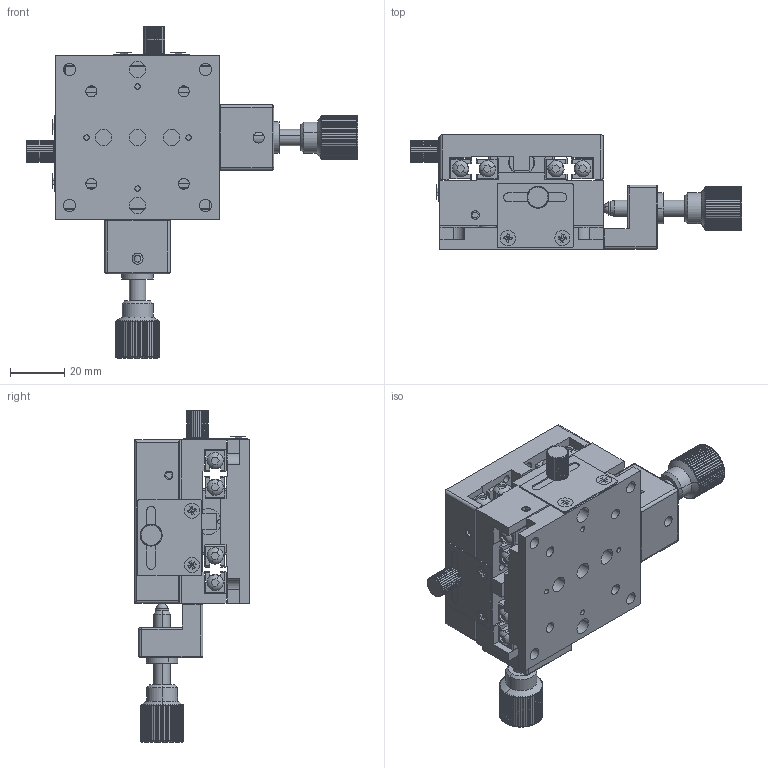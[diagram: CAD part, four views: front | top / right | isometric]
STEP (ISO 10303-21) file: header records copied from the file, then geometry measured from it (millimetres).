
FILE_DESCRIPTION (( 'STEP AP203' ), '1' );
FILE_NAME ('STCS60XY-05A.STEP', '2017-02-23T08:08:46', ( '' ), ( '' ), 'SwSTEP 2.0', 'SolidWorks 2012', '' );
FILE_SCHEMA (( 'CONFIG_CONTROL_DESIGN' ));
Length unit declared in the file: millimetre
Products named in the file (1): STCS60XY-05A
Bounding box: 122 x 42 x 122 mm (x, y, z)
Surface area: 55643.4 mm2 (no closed solid volume)
Topology: 0 solids, 56 shells, 1315 faces, 4078 edges, 2774 vertices
Faces by surface type: plane 868, cylinder 357, torus 52, cone 34, sphere 4
Entity records: 46648 total; most frequent: CARTESIAN_POINT 11016, ORIENTED_EDGE 7216, DIRECTION 7094, EDGE_CURVE 4062, VERTEX_POINT 2770, AXIS2_PLACEMENT_3D 2406, VECTOR 2282, LINE 2282
